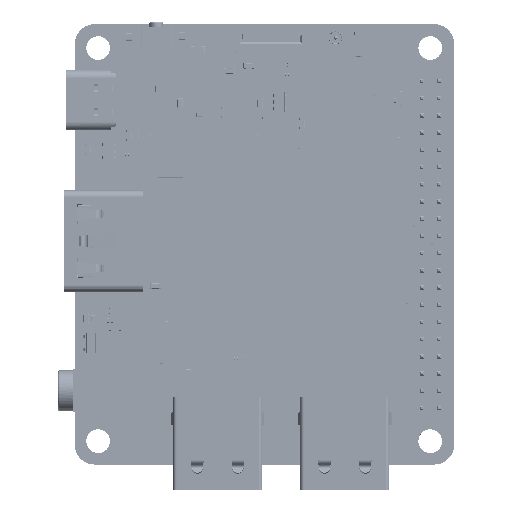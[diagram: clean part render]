
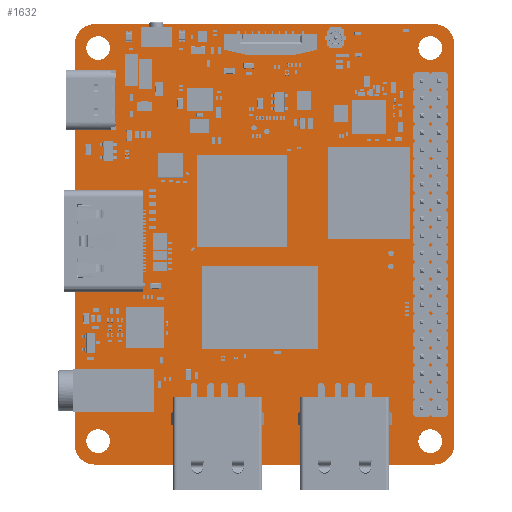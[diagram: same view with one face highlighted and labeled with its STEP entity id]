
A CAD part, top view. The second image highlights one B-rep face of the part: STEP entity #1632.
In plain terms, the highlighted planar face has unit normal (0, 0, 1).
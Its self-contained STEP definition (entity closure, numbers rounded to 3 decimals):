
#1261=DIRECTION('',(1.,0.,0.));
#1262=VECTOR('',#1261,50.043);
#1263=CARTESIAN_POINT('',(101.098,110.463,1.2));
#1264=LINE('',#1263,#1262);
#1265=CARTESIAN_POINT('',(101.098,113.463,1.2));
#1266=DIRECTION('',(0.,0.,1.));
#1267=DIRECTION('',(-1.,0.,0.));
#1268=AXIS2_PLACEMENT_3D('',#1265,#1266,#1267);
#1270=DIRECTION('',(0.,-1.,0.));
#1271=VECTOR('',#1270,59.);
#1272=CARTESIAN_POINT('',(98.108,172.464,1.2));
#1273=LINE('',#1272,#1271);
#1274=CARTESIAN_POINT('',(101.107,172.463,1.2));
#1275=DIRECTION('',(0.,0.,1.));
#1276=DIRECTION('',(0.,1.,0.));
#1277=AXIS2_PLACEMENT_3D('',#1274,#1275,#1276);
#1279=DIRECTION('',(-1.,0.,0.));
#1280=VECTOR('',#1279,50.033);
#1281=CARTESIAN_POINT('',(151.141,175.463,1.2));
#1282=LINE('',#1281,#1280);
#1283=CARTESIAN_POINT('',(151.141,172.463,1.2));
#1284=DIRECTION('',(0.,0.,1.));
#1285=DIRECTION('',(1.,0.,0.));
#1286=AXIS2_PLACEMENT_3D('',#1283,#1284,#1285);
#1288=DIRECTION('',(0.,1.,0.));
#1289=VECTOR('',#1288,59.);
#1290=CARTESIAN_POINT('',(154.141,113.463,1.2));
#1291=LINE('',#1290,#1289);
#1292=CARTESIAN_POINT('',(151.141,113.463,1.2));
#1293=DIRECTION('',(0.,0.,1.));
#1294=DIRECTION('',(0.,-1.,0.));
#1295=AXIS2_PLACEMENT_3D('',#1292,#1293,#1294);
#1297=CARTESIAN_POINT('',(101.578,171.919,1.2));
#1298=DIRECTION('',(0.,0.,-1.));
#1299=DIRECTION('',(-1.,0.,0.));
#1300=AXIS2_PLACEMENT_3D('',#1297,#1298,#1299);
#1302=CARTESIAN_POINT('',(101.578,171.919,1.2));
#1303=DIRECTION('',(0.,0.,-1.));
#1304=DIRECTION('',(1.,0.,0.));
#1305=AXIS2_PLACEMENT_3D('',#1302,#1303,#1304);
#1307=CARTESIAN_POINT('',(150.578,171.919,1.2));
#1308=DIRECTION('',(0.,0.,-1.));
#1309=DIRECTION('',(-1.,0.,0.));
#1310=AXIS2_PLACEMENT_3D('',#1307,#1308,#1309);
#1312=CARTESIAN_POINT('',(150.578,171.919,1.2));
#1313=DIRECTION('',(0.,0.,-1.));
#1314=DIRECTION('',(1.,0.,0.));
#1315=AXIS2_PLACEMENT_3D('',#1312,#1313,#1314);
#1317=CARTESIAN_POINT('',(150.578,113.919,1.2));
#1318=DIRECTION('',(0.,0.,-1.));
#1319=DIRECTION('',(-1.,0.,0.));
#1320=AXIS2_PLACEMENT_3D('',#1317,#1318,#1319);
#1322=CARTESIAN_POINT('',(150.578,113.919,1.2));
#1323=DIRECTION('',(0.,0.,-1.));
#1324=DIRECTION('',(1.,0.,0.));
#1325=AXIS2_PLACEMENT_3D('',#1322,#1323,#1324);
#1327=CARTESIAN_POINT('',(101.578,113.919,1.2));
#1328=DIRECTION('',(0.,0.,-1.));
#1329=DIRECTION('',(-1.,0.,0.));
#1330=AXIS2_PLACEMENT_3D('',#1327,#1328,#1329);
#1332=CARTESIAN_POINT('',(101.578,113.919,1.2));
#1333=DIRECTION('',(0.,0.,-1.));
#1334=DIRECTION('',(1.,0.,0.));
#1335=AXIS2_PLACEMENT_3D('',#1332,#1333,#1334);
#1401=CARTESIAN_POINT('',(101.098,110.463,1.2));
#1402=CARTESIAN_POINT('',(151.141,110.463,1.2));
#1403=VERTEX_POINT('',#1401);
#1404=VERTEX_POINT('',#1402);
#1405=CARTESIAN_POINT('',(154.141,113.463,1.2));
#1406=VERTEX_POINT('',#1405);
#1407=CARTESIAN_POINT('',(154.141,172.463,1.2));
#1408=VERTEX_POINT('',#1407);
#1409=CARTESIAN_POINT('',(151.141,175.463,1.2));
#1410=VERTEX_POINT('',#1409);
#1411=CARTESIAN_POINT('',(101.108,175.463,1.2));
#1412=VERTEX_POINT('',#1411);
#1413=CARTESIAN_POINT('',(98.108,172.464,1.2));
#1414=VERTEX_POINT('',#1413);
#1415=CARTESIAN_POINT('',(98.098,113.464,1.2));
#1416=VERTEX_POINT('',#1415);
#1417=CARTESIAN_POINT('',(99.828,171.919,1.2));
#1418=CARTESIAN_POINT('',(103.328,171.919,1.2));
#1419=VERTEX_POINT('',#1417);
#1420=VERTEX_POINT('',#1418);
#1421=CARTESIAN_POINT('',(148.828,171.919,1.2));
#1422=CARTESIAN_POINT('',(152.328,171.919,1.2));
#1423=VERTEX_POINT('',#1421);
#1424=VERTEX_POINT('',#1422);
#1425=CARTESIAN_POINT('',(148.828,113.919,1.2));
#1426=CARTESIAN_POINT('',(152.328,113.919,1.2));
#1427=VERTEX_POINT('',#1425);
#1428=VERTEX_POINT('',#1426);
#1429=CARTESIAN_POINT('',(99.828,113.919,1.2));
#1430=CARTESIAN_POINT('',(103.328,113.919,1.2));
#1431=VERTEX_POINT('',#1429);
#1432=VERTEX_POINT('',#1430);
#1593=CARTESIAN_POINT('',(0.,0.,1.2));
#1594=DIRECTION('',(0.,0.,1.));
#1595=DIRECTION('',(1.,0.,0.));
#1596=AXIS2_PLACEMENT_3D('',#1593,#1594,#1595);
#1597=PLANE('',#1596);
#1598=ORIENTED_EDGE('',*,*,#1489,.F.);
#1599=ORIENTED_EDGE('',*,*,#1504,.F.);
#1600=ORIENTED_EDGE('',*,*,#1518,.F.);
#1601=ORIENTED_EDGE('',*,*,#1532,.F.);
#1602=ORIENTED_EDGE('',*,*,#1546,.F.);
#1603=ORIENTED_EDGE('',*,*,#1560,.F.);
#1604=ORIENTED_EDGE('',*,*,#1574,.F.);
#1605=ORIENTED_EDGE('',*,*,#1587,.F.);
#1606=EDGE_LOOP('',(#1598,#1599,#1600,#1601,#1602,#1603,#1604,#1605));
#1607=FACE_OUTER_BOUND('',#1606,.F.);
#1609=ORIENTED_EDGE('',*,*,#1608,.F.);
#1611=ORIENTED_EDGE('',*,*,#1610,.F.);
#1612=EDGE_LOOP('',(#1609,#1611));
#1613=FACE_BOUND('',#1612,.F.);
#1615=ORIENTED_EDGE('',*,*,#1614,.F.);
#1617=ORIENTED_EDGE('',*,*,#1616,.F.);
#1618=EDGE_LOOP('',(#1615,#1617));
#1619=FACE_BOUND('',#1618,.F.);
#1621=ORIENTED_EDGE('',*,*,#1620,.F.);
#1623=ORIENTED_EDGE('',*,*,#1622,.F.);
#1624=EDGE_LOOP('',(#1621,#1623));
#1625=FACE_BOUND('',#1624,.F.);
#1627=ORIENTED_EDGE('',*,*,#1626,.F.);
#1629=ORIENTED_EDGE('',*,*,#1628,.F.);
#1630=EDGE_LOOP('',(#1627,#1629));
#1631=FACE_BOUND('',#1630,.F.);
#1632=ADVANCED_FACE('',(#1607,#1613,#1619,#1625,#1631),#1597,.T.);
#1269=CIRCLE('',#1268,3.);
#1278=CIRCLE('',#1277,3.);
#1287=CIRCLE('',#1286,3.);
#1296=CIRCLE('',#1295,3.);
#1301=CIRCLE('',#1300,1.75);
#1306=CIRCLE('',#1305,1.75);
#1311=CIRCLE('',#1310,1.75);
#1316=CIRCLE('',#1315,1.75);
#1321=CIRCLE('',#1320,1.75);
#1326=CIRCLE('',#1325,1.75);
#1331=CIRCLE('',#1330,1.75);
#1336=CIRCLE('',#1335,1.75);
#1489=EDGE_CURVE('',#1403,#1404,#1264,.T.);
#1504=EDGE_CURVE('',#1416,#1403,#1269,.T.);
#1518=EDGE_CURVE('',#1414,#1416,#1273,.T.);
#1532=EDGE_CURVE('',#1412,#1414,#1278,.T.);
#1546=EDGE_CURVE('',#1410,#1412,#1282,.T.);
#1560=EDGE_CURVE('',#1408,#1410,#1287,.T.);
#1574=EDGE_CURVE('',#1406,#1408,#1291,.T.);
#1587=EDGE_CURVE('',#1404,#1406,#1296,.T.);
#1608=EDGE_CURVE('',#1419,#1420,#1301,.T.);
#1610=EDGE_CURVE('',#1420,#1419,#1306,.T.);
#1614=EDGE_CURVE('',#1423,#1424,#1311,.T.);
#1616=EDGE_CURVE('',#1424,#1423,#1316,.T.);
#1620=EDGE_CURVE('',#1427,#1428,#1321,.T.);
#1622=EDGE_CURVE('',#1428,#1427,#1326,.T.);
#1626=EDGE_CURVE('',#1431,#1432,#1331,.T.);
#1628=EDGE_CURVE('',#1432,#1431,#1336,.T.);
